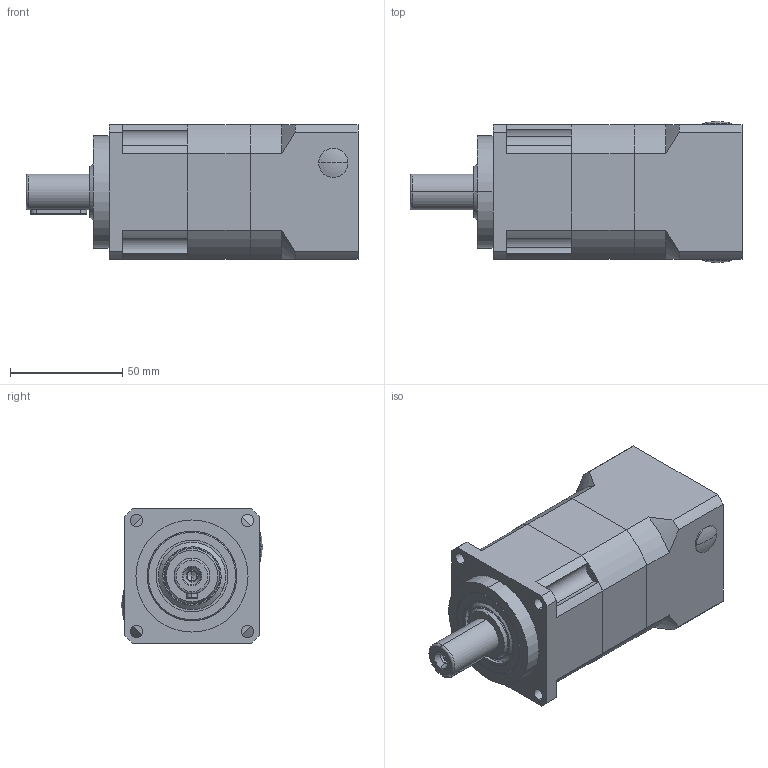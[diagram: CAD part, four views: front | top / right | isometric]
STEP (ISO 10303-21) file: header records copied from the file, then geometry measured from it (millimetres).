
FILE_DESCRIPTION (( 'STEP AP203' ), '1' );
FILE_NAME ('060-L2-14-50-70-M5.STEP', '2020-06-12T00:36:55', ( 'ylmfeng' ), ( 'ylmfeng.com' ), 'SwSTEP 2.0', 'SolidWorks 2014', '' );
FILE_SCHEMA (( 'CONFIG_CONTROL_DESIGN' ));
Length unit declared in the file: millimetre
Products named in the file (1): 060-L2-14-50-70-M5
Bounding box: 148 x 63 x 60 mm (x, y, z)
Volume: 354129 mm3; surface area: 76334.1 mm2
Topology: 16 solids, 17 shells, 456 faces, 1124 edges, 709 vertices
Faces by surface type: plane 164, cylinder 158, cone 70, torus 36, bspline 28
Entity records: 14679 total; most frequent: CARTESIAN_POINT 3818, DIRECTION 2311, ORIENTED_EDGE 2216, EDGE_CURVE 1108, AXIS2_PLACEMENT_3D 917, VERTEX_POINT 709, EDGE_LOOP 509, CIRCLE 488
